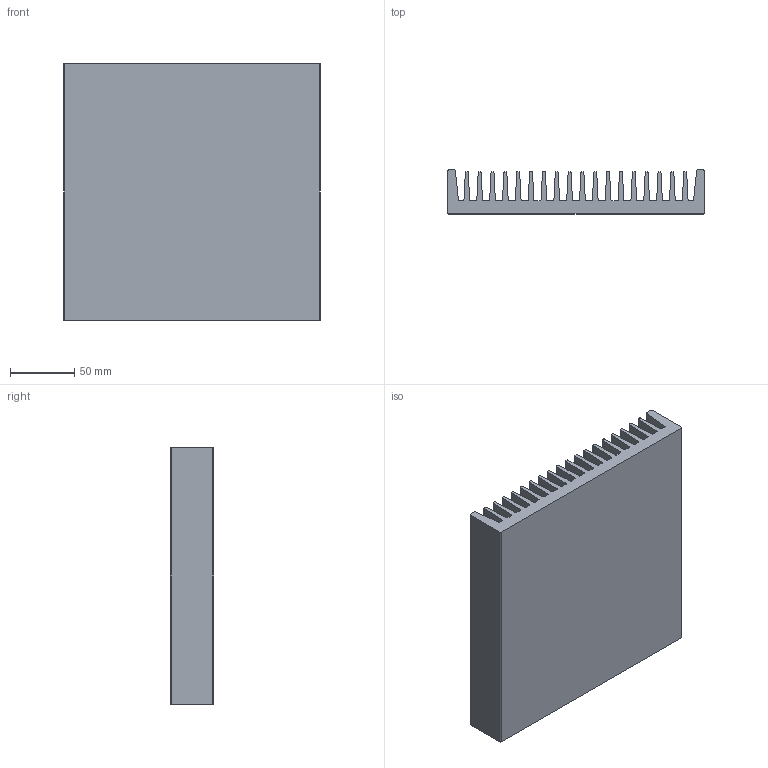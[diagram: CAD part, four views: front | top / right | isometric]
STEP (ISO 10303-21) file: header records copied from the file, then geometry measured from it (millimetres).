
FILE_DESCRIPTION (( 'STEP AP214' ), '1' );
FILE_NAME ('PR328.STEP', '2013-04-23T09:10:20', ( '' ), ( '' ), 'SwSTEP 2.0', 'SolidWorks 2013', '' );
FILE_SCHEMA (( 'AUTOMOTIVE_DESIGN' ));
Length unit declared in the file: millimetre
Products named in the file (1): PR328
Bounding box: 200 x 34 x 200 mm (x, y, z)
Volume: 742874.8 mm3; surface area: 259833.4 mm2
Topology: 1 solids, 1 shells, 162 faces, 480 edges, 320 vertices
Faces by surface type: plane 82, cylinder 80
Entity records: 5498 total; most frequent: DIRECTION 966, CARTESIAN_POINT 963, ORIENTED_EDGE 960, EDGE_CURVE 480, AXIS2_PLACEMENT_3D 323, VERTEX_POINT 320, VECTOR 320, LINE 320
